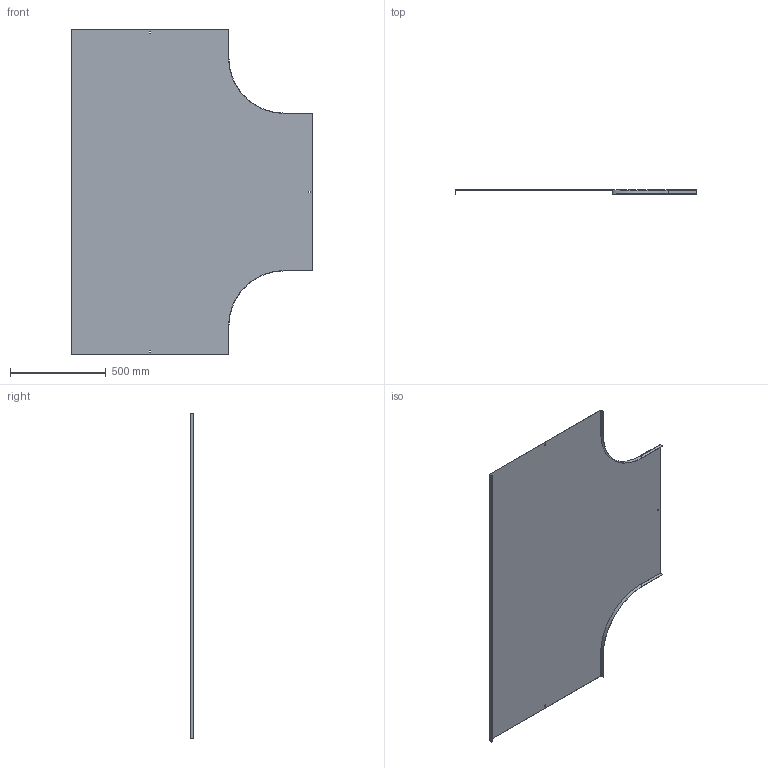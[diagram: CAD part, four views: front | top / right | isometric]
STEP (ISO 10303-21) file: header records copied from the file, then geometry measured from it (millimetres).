
FILE_DESCRIPTION (( 'STEP AP214' ), '1' );
FILE_NAME ('15N3P800.step', '2025-02-21T13:55:59', ( '' ), ( '' ), 'SwSTEP 2.0', 'SolidWorks 2023', '' );
FILE_SCHEMA (( 'AUTOMOTIVE_DESIGN' ));
Length unit declared in the file: millimetre
Products named in the file (1): 15N3P800
Bounding box: 1261.5 x 20 x 1700 mm (x, y, z)
Volume: 2782342 mm3; surface area: 3718608.3 mm2
Topology: 1 solids, 1 shells, 34 faces, 96 edges, 64 vertices
Faces by surface type: plane 30, cylinder 4
Entity records: 1123 total; most frequent: CARTESIAN_POINT 195, ORIENTED_EDGE 192, DIRECTION 174, EDGE_CURVE 96, LINE 88, VECTOR 88, VERTEX_POINT 64, AXIS2_PLACEMENT_3D 43
